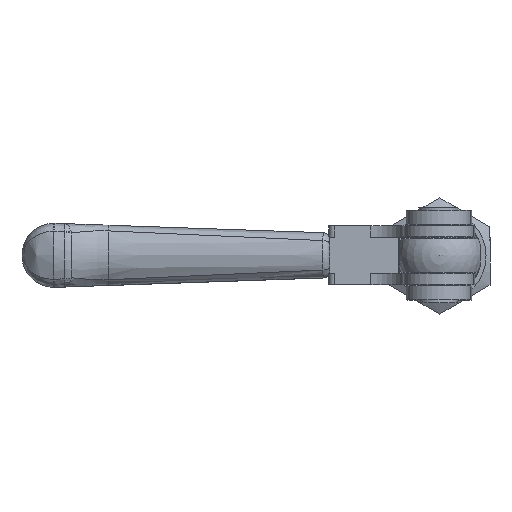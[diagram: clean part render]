
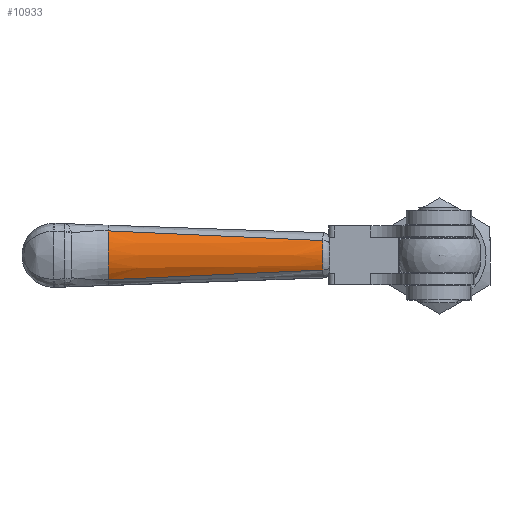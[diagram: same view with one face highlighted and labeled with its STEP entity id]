
A CAD part, top view. The second image highlights one B-rep face of the part: STEP entity #10933.
In plain terms, the highlighted conical face has half-angle 1.988 degrees and reference radius 13.372 mm.
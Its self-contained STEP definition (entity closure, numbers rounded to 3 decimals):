
#10003=CARTESIAN_POINT('',(-118.353,8.718,161.033));
#10004=VERTEX_POINT('',#10003);
#10023=CARTESIAN_POINT('',(-118.353,-8.718,161.033));
#10024=VERTEX_POINT('',#10023);
#10034=CARTESIAN_POINT('',(-118.166,0.,149.144));
#10035=DIRECTION('',(-1.,0.0,-0.016));
#10036=DIRECTION('',(0.0,-1.0,0.0));
#10037=AXIS2_PLACEMENT_3D('',#10034,#10035,#10036);
#10038=CIRCLE('',#10037,14.744);
#10039=EDGE_CURVE('',#10024,#10004,#10038,.T.);
#10886=CARTESIAN_POINT('',(-41.719,5.264,161.223));
#10887=VERTEX_POINT('',#10886);
#10898=CARTESIAN_POINT('',(-118.353,8.718,161.033));
#10899=CARTESIAN_POINT('',(-92.808,7.637,161.127));
#10900=CARTESIAN_POINT('',(-67.263,6.513,161.202));
#10901=CARTESIAN_POINT('',(-41.719,5.264,161.223));
#10902=B_SPLINE_CURVE_WITH_KNOTS('',3,(#10898,#10899,#10900,#10901),.UNSPECIFIED.,.F.,.U.,(4,4),(-8.411,-0.742),.UNSPECIFIED.);
#10903=EDGE_CURVE('',#10004,#10887,#10902,.T.);
#10908=CARTESIAN_POINT('',(-78.651,0.,149.764));
#10909=DIRECTION('',(-1.,0.,-0.016));
#10910=DIRECTION('',(0.0,-1.0,0.0));
#10911=AXIS2_PLACEMENT_3D('',#10908,#10909,#10910);
#10912=CONICAL_SURFACE('',#10911,13.372,1.988);
#10913=CARTESIAN_POINT('',(-41.719,-5.264,161.223));
#10914=VERTEX_POINT('',#10913);
#10915=CARTESIAN_POINT('',(-41.548,0.,150.347));
#10916=DIRECTION('',(1.,0.,0.016));
#10917=DIRECTION('',(-0.016,0.,1.));
#10918=AXIS2_PLACEMENT_3D('',#10915,#10916,#10917);
#10919=CIRCLE('',#10918,12.084);
#10920=EDGE_CURVE('',#10887,#10914,#10919,.T.);
#10921=ORIENTED_EDGE('',*,*,#10920,.F.);
#10922=ORIENTED_EDGE('',*,*,#10903,.F.);
#10923=ORIENTED_EDGE('',*,*,#10039,.F.);
#10924=CARTESIAN_POINT('',(-41.719,-5.264,161.223));
#10925=CARTESIAN_POINT('',(-67.263,-6.513,161.202));
#10926=CARTESIAN_POINT('',(-92.808,-7.637,161.127));
#10927=CARTESIAN_POINT('',(-118.353,-8.718,161.033));
#10928=B_SPLINE_CURVE_WITH_KNOTS('',3,(#10924,#10925,#10926,#10927),.UNSPECIFIED.,.F.,.U.,(4,4),(-7.669,0.0),.UNSPECIFIED.);
#10929=EDGE_CURVE('',#10914,#10024,#10928,.T.);
#10930=ORIENTED_EDGE('',*,*,#10929,.F.);
#10931=EDGE_LOOP('',(#10921,#10922,#10923,#10930));
#10932=FACE_OUTER_BOUND('',#10931,.T.);
#10933=ADVANCED_FACE('',(#10932),#10912,.T.);
